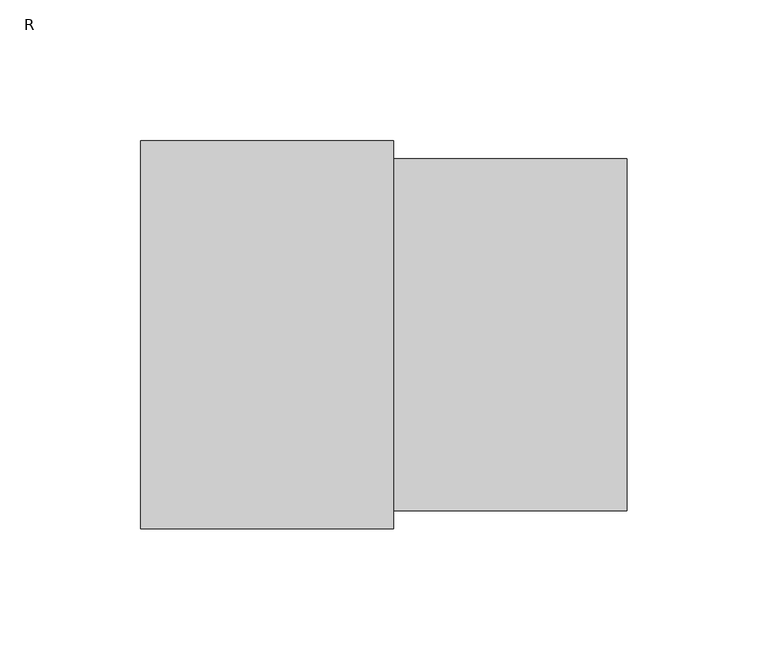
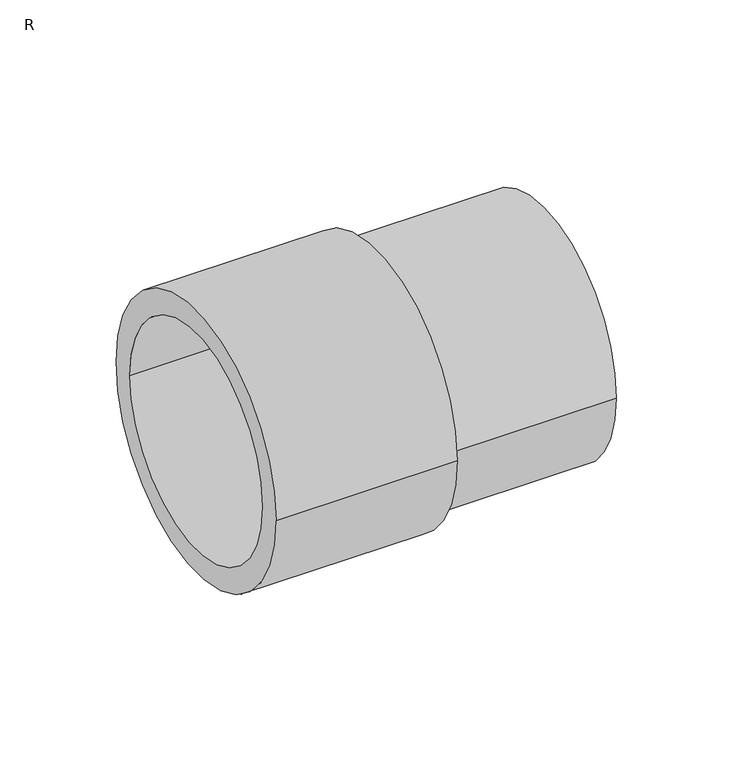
"""IFC4 building model written with IfcOpenShell, lengths in millimetres: pipe fitting geometry, FUSAPEX reducer : R."""

from ifc_helpers import new_model, si_unit, frame, origin, place, context, project, spatial, polyline, circle_curve, source, transform, mapped, element, save
from ifc_brep_helpers import plane_surface, cylinder_surface, revolved_surface, advanced_brep


def r_c27c096f(model_context):
    return source(origin(), model_context, "Body", "AdvancedBrep", [
        advanced_brep(
        [(-90.0, 57.0, 0.0), (-90.0, -57.0, 0.0), (-11.7, -57.0, 0.0), (-11.7, 57.0, 0.0), (0.0, 69.0, 0.0), (0.0, -69.0, 0.0), (-90.0, -69.0, 0.0), (-90.0, 69.0, 0.0), (83.0, 62.5, 0.0), (83.0, -62.5, 0.0), (0.0, -62.5, 0.0), (0.0, 62.5, 0.0), (-11.7, 51.05, 0.0), (-11.7, -51.05, 0.0), (83.0, -51.05, 0.0), (83.0, 51.05, 0.0)],
        [
            (0, 1, circle_curve(frame((-90.0, 0.0, 0.0), z_axis=(-1.0, 0.0, 0.0), x_axis=(0.0, -1.0, 0.0)), 57.0)),
            (1, 2),
            (2, 3, circle_curve(frame((-11.7, 0.0, 0.0), z_axis=(1.0, 0.0, 0.0), x_axis=(0.0, -1.0, 0.0)), 57.0)),
            (3, 0),
            (4, 5, circle_curve(frame((0.0, 0.0, 0.0), z_axis=(-1.0, 0.0, 0.0), x_axis=(0.0, -1.0, 0.0)), 69.0)),
            (5, 6),
            (6, 7, circle_curve(frame((-90.0, 0.0, 0.0), z_axis=(1.0, 0.0, 0.0), x_axis=(0.0, -1.0, 0.0)), 69.0)),
            (7, 4),
            (8, 9, circle_curve(frame((83.0, 0.0, 0.0), z_axis=(-1.0, 0.0, 0.0), x_axis=(0.0, -1.0, 0.0)), 62.5)),
            (9, 10),
            (10, 11, circle_curve(frame((0.0, 0.0, 0.0), z_axis=(1.0, 0.0, 0.0), x_axis=(0.0, -1.0, 0.0)), 62.5)),
            (11, 8),
            (12, 13, circle_curve(frame((-11.7, 0.0, 0.0), z_axis=(-1.0, 0.0, 0.0), x_axis=(0.0, -1.0, 0.0)), 51.05)),
            (13, 14),
            (14, 15, circle_curve(frame((83.0, 0.0, 0.0), z_axis=(1.0, 0.0, 0.0), x_axis=(0.0, -1.0, 0.0)), 51.05)),
            (15, 12),
            (1, 0, circle_curve(frame((-90.0, 0.0, 0.0), z_axis=(-1.0, 0.0, 0.0), x_axis=(0.0, 1.0, 0.0)), 57.0)),
            (3, 2, circle_curve(frame((-11.7, 0.0, 0.0), z_axis=(1.0, 0.0, 0.0), x_axis=(0.0, 1.0, 0.0)), 57.0)),
            (6, 7, circle_curve(frame((-90.0, 0.0, 0.0), z_axis=(-1.0, 0.0, 0.0), x_axis=(0.0, 1.0, 0.0)), 69.0)),
            (5, 4, circle_curve(frame((0.0, 0.0, 0.0), z_axis=(-1.0, 0.0, 0.0), x_axis=(0.0, 1.0, 0.0)), 69.0)),
            (10, 11, circle_curve(frame((0.0, 0.0, 0.0), z_axis=(-1.0, 0.0, 0.0), x_axis=(0.0, 1.0, 0.0)), 62.5)),
            (9, 8, circle_curve(frame((83.0, 0.0, 0.0), z_axis=(-1.0, 0.0, 0.0), x_axis=(0.0, 1.0, 0.0)), 62.5)),
            (14, 15, circle_curve(frame((83.0, 0.0, 0.0), z_axis=(-1.0, 0.0, 0.0), x_axis=(0.0, 1.0, 0.0)), 51.05)),
            (13, 12, circle_curve(frame((-11.7, 0.0, 0.0), z_axis=(-1.0, 0.0, 0.0), x_axis=(0.0, 1.0, 0.0)), 51.05)),
        ],
        [
            revolved_surface(polyline([(-11.7, -57.0, 0.0), (-90.0, -57.0, 0.0)]), (0.0, 0.0, 0.0), (1.0, 0.0, 0.0)),
            cylinder_surface(frame((0.0, 0.0, 0.0), z_axis=(1.0, 0.0, 0.0), x_axis=(0.0, -1.0, 0.0)), 69.0),
            cylinder_surface(frame((0.0, 0.0, 0.0), z_axis=(1.0, 0.0, 0.0), x_axis=(0.0, -1.0, 0.0)), 62.5),
            revolved_surface(polyline([(83.0, -51.05, 0.0), (-11.7, -51.05, 0.0)]), (0.0, 0.0, 0.0), (1.0, 0.0, 0.0)),
            revolved_surface(polyline([(-11.7, 57.0, 0.0), (-90.0, 57.0, 0.0)]), (0.0, 0.0, 0.0), (1.0, 0.0, 0.0)),
            plane_surface(frame((-90.0, 0.0, 0.0), z_axis=(-1.0, 0.0, 0.0), x_axis=(0.0, 1.0, 0.0))),
            cylinder_surface(frame((0.0, 0.0, 0.0), z_axis=(1.0, 0.0, 0.0), x_axis=(0.0, 1.0, 0.0)), 69.0),
            plane_surface(frame((0.0, 0.0, 0.0), z_axis=(1.0, 0.0, 0.0), x_axis=(0.0, 1.0, 0.0))),
            cylinder_surface(frame((0.0, 0.0, 0.0), z_axis=(1.0, 0.0, 0.0), x_axis=(0.0, 1.0, 0.0)), 62.5),
            plane_surface(frame((83.0, 0.0, 0.0), z_axis=(1.0, 0.0, 0.0), x_axis=(0.0, 1.0, 0.0))),
            revolved_surface(polyline([(83.0, 51.05, 0.0), (-11.7, 51.05, 0.0)]), (0.0, 0.0, 0.0), (1.0, 0.0, 0.0)),
            plane_surface(frame((-11.7, 0.0, 0.0), z_axis=(-1.0, 0.0, 0.0), x_axis=(0.0, 1.0, 0.0))),
        ],
        [
            (0, [[1, 2, 3, 4]]),
            (1, [[5, 6, 7, 8]]),
            (2, [[9, 10, 11, 12]]),
            (3, [[13, 14, 15, 16]]),
            (4, [[17, -4, 18, -2]]),
            (5, [[19, -7], [-17, -1]]),
            (6, [[20, -8, -19, -6]]),
            (7, [[-20, -5], [21, -11]]),
            (8, [[22, -12, -21, -10]]),
            (9, [[-22, -9], [23, -15]]),
            (10, [[24, -16, -23, -14]]),
            (11, [[-18, -3], [-24, -13]]),
        ],
    ),
    ])


if __name__ == "__main__":
    model = new_model("IFC4")
    model_context = context("Model", 3, world=origin())
    ifc_project = project(units=[si_unit("LENGTHUNIT", "METRE", prefix="MILLI")], contexts=[model_context])
    site = spatial("IfcSite", under=ifc_project)
    building = spatial("IfcBuilding", under=site)
    placement = place(None, origin())
    r_shape = r_c27c096f(model_context)
    element("IfcPipeFitting", 1, ObjectType="FUSAPEX reducer : R", at=placement, inside=building, context=model_context, shape_type="MappedRepresentation", body=[
        mapped(r_shape, transform((0.0, 0.0, 0.0), x_axis=(1.0, 0.0, 0.0), y_axis=(0.0, 1.0, 0.0), z_axis=(0.0, 0.0, 1.0))),
    ])
    save(model, "model.ifc")
